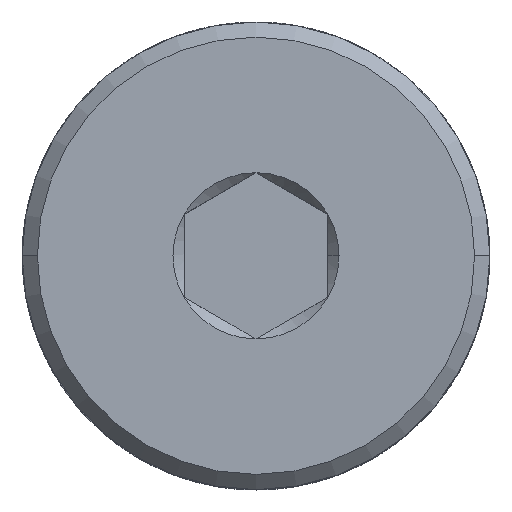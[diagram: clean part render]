
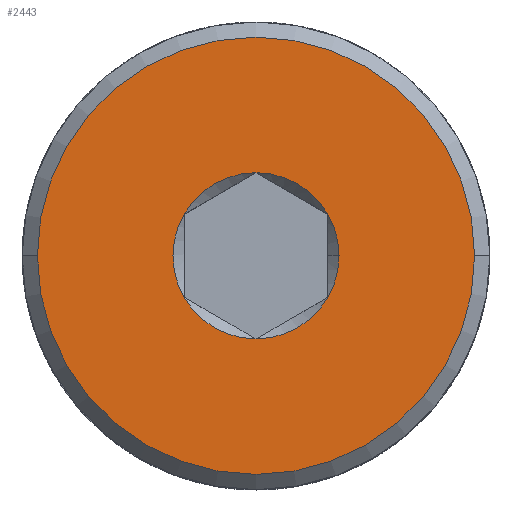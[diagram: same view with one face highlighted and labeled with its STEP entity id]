
A CAD part, top view. The second image highlights one B-rep face of the part: STEP entity #2443.
In plain terms, the highlighted planar face has unit normal (0, 0, 1).
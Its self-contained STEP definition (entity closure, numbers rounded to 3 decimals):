
#10 = EDGE_CURVE ( 'NONE', #11142, #7687, #2845, .T. ) ;
#44 = AXIS2_PLACEMENT_3D ( 'NONE', #1075, #8783, #2196 ) ;
#379 = DIRECTION ( 'NONE',  ( 0., 0., 1. ) ) ;
#990 = DIRECTION ( 'NONE',  ( 0., 0., 1. ) ) ;
#1019 = VERTEX_POINT ( 'NONE', #14020 ) ;
#1075 = CARTESIAN_POINT ( 'NONE',  ( 0., 0., 0. ) ) ;
#1621 = ORIENTED_EDGE ( 'NONE', *, *, #11283, .F. ) ;
#1656 = EDGE_CURVE ( 'NONE', #5593, #8662, #8275, .T. ) ;
#1782 = CARTESIAN_POINT ( 'NONE',  ( 2., -1.155, 0. ) ) ;
#2196 = DIRECTION ( 'NONE',  ( 1., 0., 0. ) ) ;
#2322 = DIRECTION ( 'NONE',  ( 0., 0., 1. ) ) ;
#2443 = ADVANCED_FACE ( 'NONE', ( #2558, #11676 ), #9963, .T. ) ;
#2492 = CIRCLE ( 'NONE', #10519, 2.309 ) ;
#2558 = FACE_BOUND ( 'NONE', #12176, .T. ) ;
#2697 = CARTESIAN_POINT ( 'NONE',  ( 0., -2.309, 0. ) ) ;
#2845 = CIRCLE ( 'NONE', #5370, 2.309 ) ;
#3039 = EDGE_CURVE ( 'NONE', #7687, #1019, #5139, .T. ) ;
#3485 = DIRECTION ( 'NONE',  ( 0., 0., 1. ) ) ;
#3680 = AXIS2_PLACEMENT_3D ( 'NONE', #12286, #5715, #13404 ) ;
#3729 = AXIS2_PLACEMENT_3D ( 'NONE', #9484, #9516, #9557 ) ;
#3997 = AXIS2_PLACEMENT_3D ( 'NONE', #8906, #2322, #9997 ) ;
#4254 = EDGE_LOOP ( 'NONE', ( #8332, #6416 ) ) ;
#4276 = ORIENTED_EDGE ( 'NONE', *, *, #3039, .F. ) ;
#4486 = VERTEX_POINT ( 'NONE', #5752 ) ;
#4523 = AXIS2_PLACEMENT_3D ( 'NONE', #10020, #3485, #11141 ) ;
#4527 = CARTESIAN_POINT ( 'NONE',  ( -2., -1.155, 0. ) ) ;
#5139 = CIRCLE ( 'NONE', #3729, 2.309 ) ;
#5210 = VERTEX_POINT ( 'NONE', #5321 ) ;
#5321 = CARTESIAN_POINT ( 'NONE',  ( -6.077, 0., 0. ) ) ;
#5370 = AXIS2_PLACEMENT_3D ( 'NONE', #8003, #8121, #8161 ) ;
#5593 = VERTEX_POINT ( 'NONE', #2697 ) ;
#5715 = DIRECTION ( 'NONE',  ( 0., 0., 1. ) ) ;
#5752 = CARTESIAN_POINT ( 'NONE',  ( 6.077, 0., 0. ) ) ;
#6416 = ORIENTED_EDGE ( 'NONE', *, *, #9157, .T. ) ;
#6558 = CARTESIAN_POINT ( 'NONE',  ( 2.309, 0., 0. ) ) ;
#6767 = CARTESIAN_POINT ( 'NONE',  ( -2., 1.155, 0. ) ) ;
#6978 = CARTESIAN_POINT ( 'NONE',  ( 0., 0., 0. ) ) ;
#7239 = CARTESIAN_POINT ( 'NONE',  ( 2., 1.155, 0. ) ) ;
#7594 = CARTESIAN_POINT ( 'NONE',  ( 0., 0., 0. ) ) ;
#7624 = CARTESIAN_POINT ( 'NONE',  ( 0., 0., 0. ) ) ;
#7636 = DIRECTION ( 'NONE',  ( 0., 0., 1. ) ) ;
#7664 = DIRECTION ( 'NONE',  ( 1., 0., 0. ) ) ;
#7687 = VERTEX_POINT ( 'NONE', #7239 ) ;
#7797 = ORIENTED_EDGE ( 'NONE', *, *, #10123, .F. ) ;
#8003 = CARTESIAN_POINT ( 'NONE',  ( 0., 0., 0. ) ) ;
#8116 = DIRECTION ( 'NONE',  ( 1., 0., 0. ) ) ;
#8121 = DIRECTION ( 'NONE',  ( 0., 0., 1. ) ) ;
#8161 = DIRECTION ( 'NONE',  ( 1., 0., 0. ) ) ;
#8275 = CIRCLE ( 'NONE', #11039, 2.309 ) ;
#8332 = ORIENTED_EDGE ( 'NONE', *, *, #12415, .T. ) ;
#8662 = VERTEX_POINT ( 'NONE', #1782 ) ;
#8688 = DIRECTION ( 'NONE',  ( 1., 0., 0. ) ) ;
#8783 = DIRECTION ( 'NONE',  ( 0., 0., 1. ) ) ;
#8906 = CARTESIAN_POINT ( 'NONE',  ( 0., 0., 0. ) ) ;
#9157 = EDGE_CURVE ( 'NONE', #4486, #5210, #10679, .T. ) ;
#9484 = CARTESIAN_POINT ( 'NONE',  ( 0., 0., 0. ) ) ;
#9516 = DIRECTION ( 'NONE',  ( 0., 0., 1. ) ) ;
#9557 = DIRECTION ( 'NONE',  ( 1., 0., 0. ) ) ;
#9963 = PLANE ( 'NONE',  #13398 ) ;
#9997 = DIRECTION ( 'NONE',  ( 1., 0., 0. ) ) ;
#10020 = CARTESIAN_POINT ( 'NONE',  ( 0., 0., 0. ) ) ;
#10123 = EDGE_CURVE ( 'NONE', #13998, #5593, #11330, .T. ) ;
#10161 = VERTEX_POINT ( 'NONE', #6767 ) ;
#10266 = CIRCLE ( 'NONE', #44, 6.077 ) ;
#10519 = AXIS2_PLACEMENT_3D ( 'NONE', #7594, #990, #8688 ) ;
#10679 = CIRCLE ( 'NONE', #11770, 6.077 ) ;
#10715 = ORIENTED_EDGE ( 'NONE', *, *, #1656, .F. ) ;
#11039 = AXIS2_PLACEMENT_3D ( 'NONE', #7624, #7636, #7664 ) ;
#11082 = CIRCLE ( 'NONE', #3997, 2.309 ) ;
#11141 = DIRECTION ( 'NONE',  ( 1., 0., 0. ) ) ;
#11142 = VERTEX_POINT ( 'NONE', #6558 ) ;
#11283 = EDGE_CURVE ( 'NONE', #10161, #13998, #13208, .T. ) ;
#11330 = CIRCLE ( 'NONE', #4523, 2.309 ) ;
#11676 = FACE_OUTER_BOUND ( 'NONE', #4254, .T. ) ;
#11770 = AXIS2_PLACEMENT_3D ( 'NONE', #6978, #379, #8116 ) ;
#12176 = EDGE_LOOP ( 'NONE', ( #4276, #14183, #13490, #10715, #7797, #1621, #13680 ) ) ;
#12286 = CARTESIAN_POINT ( 'NONE',  ( 0., 0., 0. ) ) ;
#12415 = EDGE_CURVE ( 'NONE', #5210, #4486, #10266, .T. ) ;
#12963 = EDGE_CURVE ( 'NONE', #8662, #11142, #11082, .T. ) ;
#13208 = CIRCLE ( 'NONE', #3680, 2.309 ) ;
#13344 = DIRECTION ( 'NONE',  ( 1., 0., 0. ) ) ;
#13398 = AXIS2_PLACEMENT_3D ( 'NONE', #13694, #13495, #13344 ) ;
#13404 = DIRECTION ( 'NONE',  ( 1., 0., 0. ) ) ;
#13490 = ORIENTED_EDGE ( 'NONE', *, *, #12963, .F. ) ;
#13495 = DIRECTION ( 'NONE',  ( 0., 0., 1. ) ) ;
#13680 = ORIENTED_EDGE ( 'NONE', *, *, #13826, .F. ) ;
#13694 = CARTESIAN_POINT ( 'NONE',  ( 0., 0., 0. ) ) ;
#13826 = EDGE_CURVE ( 'NONE', #1019, #10161, #2492, .T. ) ;
#13998 = VERTEX_POINT ( 'NONE', #4527 ) ;
#14020 = CARTESIAN_POINT ( 'NONE',  ( 0., 2.309, 0. ) ) ;
#14183 = ORIENTED_EDGE ( 'NONE', *, *, #10, .F. ) ;
